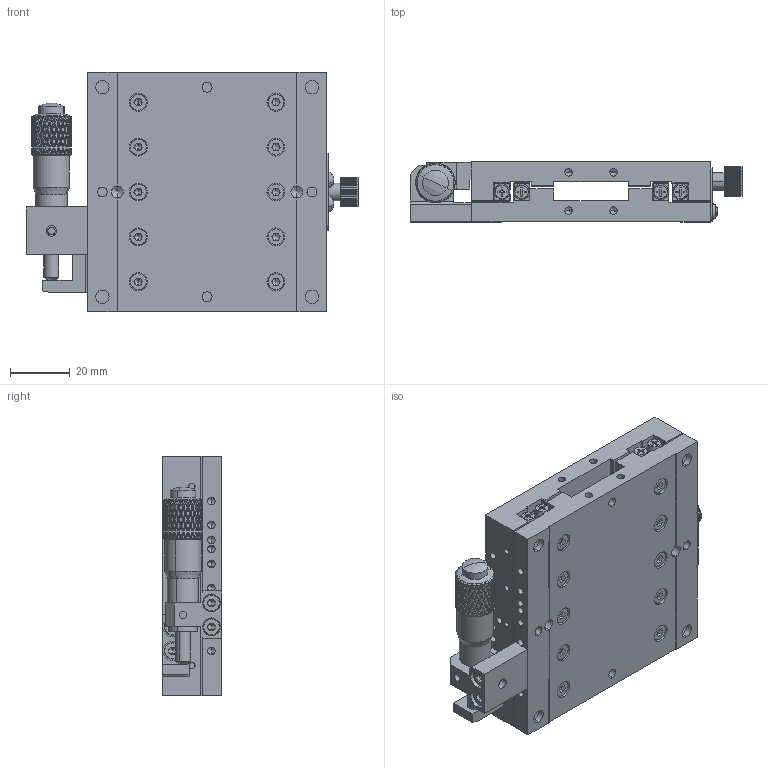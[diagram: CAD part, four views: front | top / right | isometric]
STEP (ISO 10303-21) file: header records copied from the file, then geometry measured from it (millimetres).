
FILE_DESCRIPTION (( 'STEP AP203' ), '1' );
FILE_NAME ('JCX-80L-13.STEP', '2013-12-24T04:14:52', ( 'MMO' ), ( '' ), 'SwSTEP 2.0', 'SolidWorks 2013', '' );
FILE_SCHEMA (( 'CONFIG_CONTROL_DESIGN' ));
Length unit declared in the file: millimetre
Products named in the file (11): JCX-60-20T-004; socket head cap screw_ks_KS 1003 - M3 x 5 x 5-N; JCX-80-01-01; round cross head screw_ks_KS 1023 RC - M3 x 5-N; JCX-80-02-01; JCX-80L-13; JV2-75-13; JCXY-40S-04-01; JCX-60-20T-005; JCX-60-18T-006; JALB-72-R
Assembly tree (37 placements, depth 2):
  JCX-80L-13
    JCX-80-01-01
    JCX-80-02-01
    JV2-75-13  x4
    JCXY-40S-04-01
    JCX-60-20T-005
    JCX-60-18T-006
    JALB-72-R
    JCX-60-20T-004
    socket head cap screw_ks_KS 1003 - M3 x 5 x 5-N  x24
    round cross head screw_ks_KS 1023 RC - M3 x 5-N  x2
Bounding box: 110.9 x 20 x 80 mm (x, y, z)
Volume: 113118.1 mm3; surface area: 59728.6 mm2
Topology: 37 solids, 37 shells, 3009 faces, 6919 edges, 3980 vertices
Faces by surface type: cylinder 949, bspline 832, plane 812, cone 254, torus 152, sphere 10
Entity records: 69846 total; most frequent: CARTESIAN_POINT 33760, ORIENTED_EDGE 8562, DIRECTION 5523, EDGE_CURVE 4281, VERTEX_POINT 2504, AXIS2_PLACEMENT_3D 2229, EDGE_LOOP 2129, FACE_OUTER_BOUND 1901
